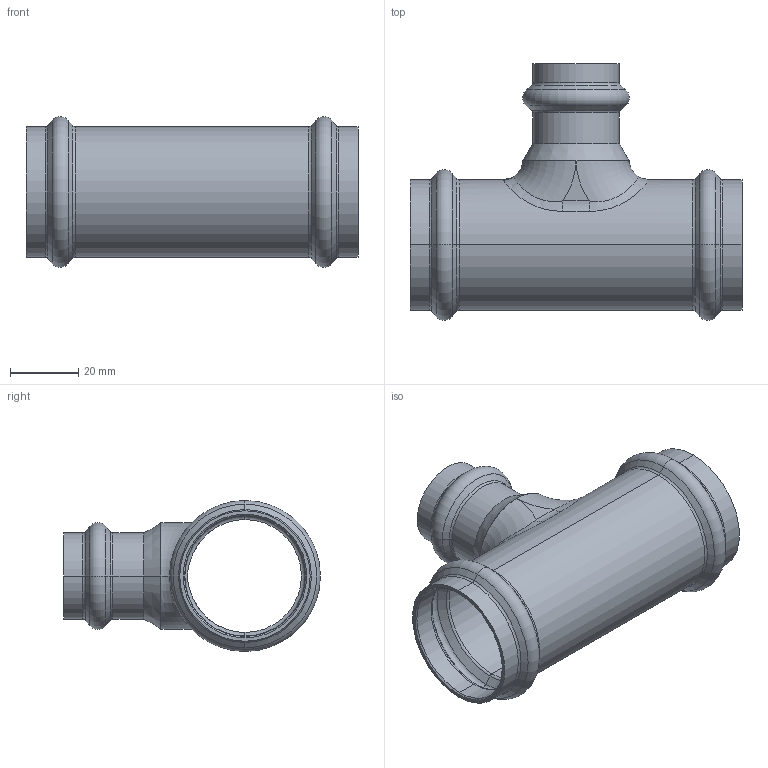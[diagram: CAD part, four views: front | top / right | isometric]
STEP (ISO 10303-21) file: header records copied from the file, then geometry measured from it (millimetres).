
FILE_DESCRIPTION (( 'STEP AP203' ), '1' );
FILE_NAME ('SP5130 Ø35-22-35.STEP', '2017-04-25T15:01:28', ( '' ), ( '' ), 'SwSTEP 2.0', 'SolidWorks 2016', '' );
FILE_SCHEMA (( 'CONFIG_CONTROL_DESIGN' ));
Length unit declared in the file: millimetre
Products named in the file (1): SP5130 Ø35-22-35
Bounding box: 97 x 75.05 x 44.1 mm (x, y, z)
Volume: 26261.9 mm3; surface area: 29328.7 mm2
Topology: 1 solids, 1 shells, 129 faces, 269 edges, 140 vertices
Faces by surface type: torus 47, cone 36, cylinder 33, plane 7, bspline 6
Entity records: 4929 total; most frequent: CARTESIAN_POINT 2095, DIRECTION 664, ORIENTED_EDGE 530, AXIS2_PLACEMENT_3D 297, EDGE_CURVE 265, CIRCLE 173, VERTEX_POINT 140, EDGE_LOOP 135
